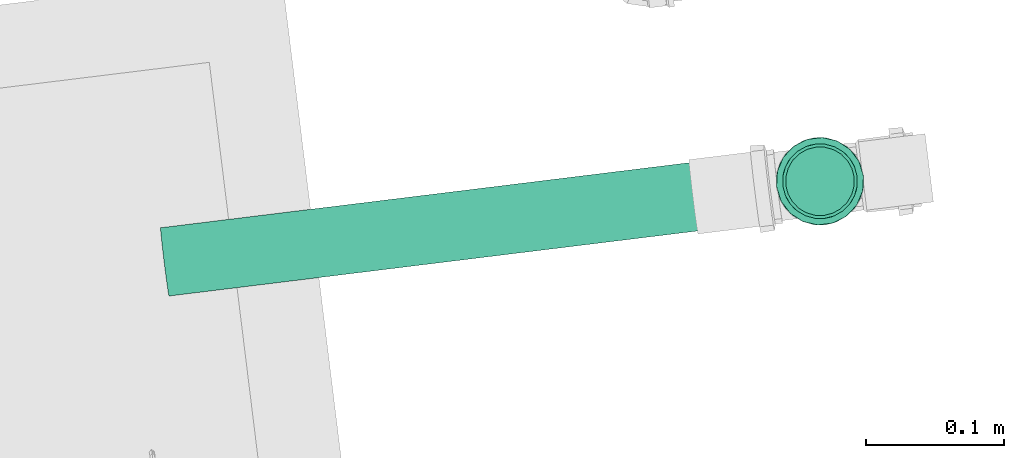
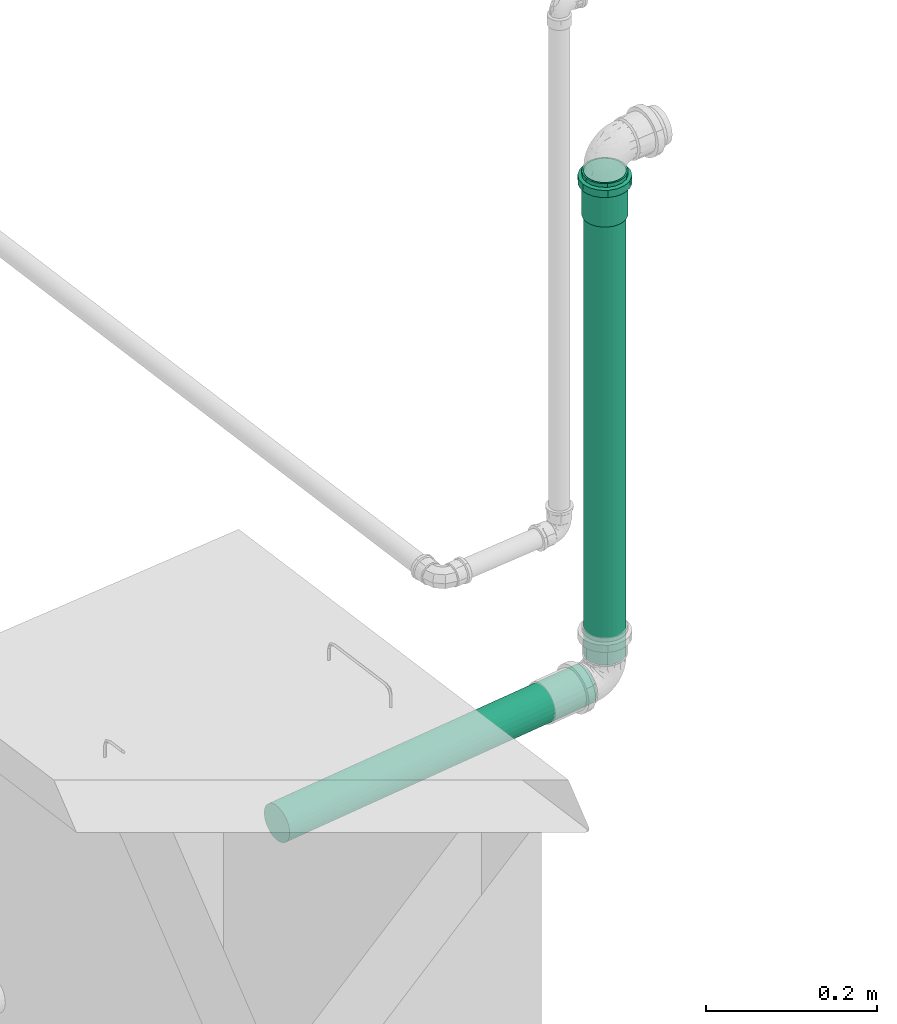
# One storey, part 34 of 97: 2 flow segments, 1 flow fitting.
"""IFC2X3 building model written with IfcOpenShell, lengths in centimetres."""

from ifc_helpers import new_model, entity, si_unit, converted_unit, derived_unit, direction, frame, frame_2d, origin, origin_2d_with_axis, place, context, subcontext, project, spatial, circle, extrude, faceted_brep, source, transform, mapped, material, type_object, type_shapes, element, save


model = new_model("IFC2X3")

# Units and contexts
model_context = context("Model", 3, precision=0.001, world=origin(), true_north=direction((6.12303176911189e-17, 1.0)))
body_context = subcontext(model_context, "Body", "Model", "MODEL_VIEW")
ifc_project = project(units=[si_unit("LENGTHUNIT", "METRE", prefix="CENTI"), si_unit("AREAUNIT", "SQUARE_METRE"), si_unit("VOLUMEUNIT", "CUBIC_METRE"), converted_unit("PLANEANGLEUNIT", "DEGREE", entity("IfcRatioMeasure", 0.0174532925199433), si_unit("PLANEANGLEUNIT", "RADIAN"), dimensions=[0, 0, 0, 0, 0, 0, 0]), si_unit("MASSUNIT", "GRAM", prefix="KILO"), derived_unit("MASSDENSITYUNIT", [(si_unit("MASSUNIT", "GRAM", prefix="KILO"), 1), (si_unit("LENGTHUNIT", "METRE"), -3)]), derived_unit("MOMENTOFINERTIAUNIT", [(si_unit("LENGTHUNIT", "METRE"), 4)]), si_unit("TIMEUNIT", "SECOND"), si_unit("FREQUENCYUNIT", "HERTZ"), si_unit("THERMODYNAMICTEMPERATUREUNIT", "DEGREE_CELSIUS"), derived_unit("THERMALTRANSMITTANCEUNIT", [(si_unit("MASSUNIT", "GRAM", prefix="KILO"), 1), (si_unit("THERMODYNAMICTEMPERATUREUNIT", "KELVIN"), -1), (si_unit("TIMEUNIT", "SECOND"), -3)]), derived_unit("VOLUMETRICFLOWRATEUNIT", [(si_unit("LENGTHUNIT", "METRE"), 3), (si_unit("TIMEUNIT", "SECOND"), -1)]), si_unit("ELECTRICCURRENTUNIT", "AMPERE"), si_unit("ELECTRICVOLTAGEUNIT", "VOLT"), si_unit("POWERUNIT", "WATT"), si_unit("FORCEUNIT", "NEWTON", prefix="KILO"), si_unit("ILLUMINANCEUNIT", "LUX"), si_unit("LUMINOUSFLUXUNIT", "LUMEN"), si_unit("LUMINOUSINTENSITYUNIT", "CANDELA"), derived_unit("USERDEFINED", [(si_unit("MASSUNIT", "GRAM", prefix="KILO"), -1), (si_unit("LENGTHUNIT", "METRE"), -2), (si_unit("TIMEUNIT", "SECOND"), 3), (si_unit("LUMINOUSFLUXUNIT", "LUMEN"), 1)]), derived_unit("LINEARVELOCITYUNIT", [(si_unit("LENGTHUNIT", "METRE"), 1), (si_unit("TIMEUNIT", "SECOND"), -1)]), si_unit("PRESSUREUNIT", "PASCAL"), derived_unit("USERDEFINED", [(si_unit("LENGTHUNIT", "METRE"), -2), (si_unit("MASSUNIT", "GRAM", prefix="KILO"), 1), (si_unit("TIMEUNIT", "SECOND"), -2)]), derived_unit("LINEARFORCEUNIT", [(si_unit("MASSUNIT", "GRAM", prefix="KILO"), 1), (si_unit("LENGTHUNIT", "METRE"), 1), (si_unit("TIMEUNIT", "SECOND"), -2), (si_unit("LENGTHUNIT", "METRE"), -1)]), derived_unit("PLANARFORCEUNIT", [(si_unit("MASSUNIT", "GRAM", prefix="KILO"), 1), (si_unit("LENGTHUNIT", "METRE"), 1), (si_unit("TIMEUNIT", "SECOND"), -2), (si_unit("LENGTHUNIT", "METRE"), -2)])], contexts=[model_context])

# Site, building, storey
site_placement = place(None, origin())
site = spatial("IfcSite", under=ifc_project, at=site_placement, Name="Default", CompositionType="ELEMENT")
building_placement = place(site_placement, origin())
building = spatial("IfcBuilding", under=site, at=building_placement, Name="HIDROSSANITÁRIO", CompositionType="ELEMENT")
storey_placement = place(building_placement, frame((0.0, 0.0, -260.0)))
storey = spatial("IfcBuildingStorey", under=building, at=storey_placement, Name="TÉRREO-HID", CompositionType="ELEMENT", Elevation=-260.0)

# Flow segments
pipe_segment_type = type_object("IfcPipeSegmentType", Name="Tipos de tubos:Tubo - Esgoto - Série Normal", PredefinedType="NOTDEFINED")
flow_segment_1_placement = place(storey_placement, origin())
element("IfcFlowSegment", 1, at=flow_segment_1_placement, inside=storey, type_object=pipe_segment_type, Name="Tipos de tubos:Tubo - Esgoto - Série Normal", ObjectType="Tipos de tubos:Tubo - Esgoto - Série Normal", context=body_context, shape_type="SweptSolid", body=[
    extrude(circle(Radius=2.5, at=origin_2d_with_axis()), frame((-258.461520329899, 3062.14835597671, -25.9596161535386), z_axis=(0.992312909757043, 0.122128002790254, 0.0199960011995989), x_axis=(-0.12215242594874, 0.992511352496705, 0.0)), (0.0, 0.0, 1.0), 44.9410790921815),
])
flow_segment_2_placement = place(storey_placement, origin())
element("IfcFlowSegment", 2, at=flow_segment_2_placement, inside=storey, type_object=pipe_segment_type, Name="Tipos de tubos:Tubo - Esgoto - Série Normal", ObjectType="Tipos de tubos:Tubo - Esgoto - Série Normal", context=body_context, shape_type="SweptSolid", body=[
    extrude(circle(Radius=2.5, at=frame_2d((0.0, 4.33146851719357e-13), x_axis=(1.0, 0.0))), frame((-210.840024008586, 3068.00932803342, -21.9314800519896)), (0.0, 0.0, 1.0), 68.8114800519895),
])

# Flow fitting
ifc_material = material(Name="PVC Branco")
pipe_fitting_type = type_object("IfcPipeFittingType", Name="Luva Simples para Conexão - Serie Normal - Esgoto - MEP - Tigre:Standard", PredefinedType="NOTDEFINED", material=ifc_material)
shared_shape = source(origin(), body_context, "Body", "Brep", [
    faceted_brep([(1.65999999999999, 1.59, -2.75396078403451), (1.65999999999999, 2.24859956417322, -2.24859956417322), (1.65999999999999, 1.35999999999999, -2.35558909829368), (1.65999999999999, 0.703987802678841, -2.62731824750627), (1.65999999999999, 0.82304456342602, -3.07164412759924), (1.65999999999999, 1.9233304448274, -1.92333044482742), (1.65999999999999, 2.75396078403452, -1.59), (1.65999999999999, 2.35558909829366, -1.36000000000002), (1.65999999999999, 2.62731824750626, -0.703987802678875), (1.65999999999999, 3.07164412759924, -0.823044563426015), (1.65999999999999, 2.72, 0.0), (1.65999999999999, 3.18, 0.0), (1.65999999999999, 2.62731824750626, 0.703987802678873), (1.65999999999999, 3.07164412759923, 0.823044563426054), (1.65999999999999, 2.35558909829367, 1.36000000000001), (1.65999999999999, 2.7539607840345, 1.59000000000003), (1.65999999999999, 1.9233304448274, 1.92333044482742), (1.65999999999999, 2.24859956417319, 2.24859956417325), (1.65999999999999, 1.35999999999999, 2.35558909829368), (1.65999999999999, 1.58999999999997, 2.75396078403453), (1.65999999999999, 0.703987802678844, 2.62731824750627), (1.65999999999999, 0.823044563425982, 3.07164412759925), (1.65999999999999, 0.0, 2.72), (1.65999999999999, 0.0, 3.18), (1.65999999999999, -0.703987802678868, 2.62731824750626), (1.65999999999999, -0.823044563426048, 3.07164412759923), (1.65999999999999, -1.36000000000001, 2.35558909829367), (1.65999999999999, -1.59000000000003, 2.7539607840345), (1.65999999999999, -1.92333044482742, 1.9233304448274), (1.65999999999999, -2.24859956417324, 2.2485995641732), (1.65999999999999, -2.35558909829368, 1.35999999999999), (1.65999999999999, -2.75396078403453, 1.58999999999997), (1.65999999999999, -3.07164412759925, 0.823044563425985), (1.65999999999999, -2.62731824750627, 0.703987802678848), (1.65999999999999, -3.18, 0.0), (1.65999999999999, -2.72, 0.0), (1.65999999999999, -3.07164412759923, -0.823044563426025), (1.65999999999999, -2.62731824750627, -0.703987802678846), (1.65999999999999, -2.75396078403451, -1.59000000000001), (1.65999999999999, -2.35558909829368, -1.35999999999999), (1.65999999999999, -2.24859956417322, -2.24859956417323), (1.65999999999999, -1.92333044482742, -1.9233304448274), (1.65999999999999, -1.58999999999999, -2.75396078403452), (1.65999999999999, -1.36000000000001, -2.35558909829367), (1.65999999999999, -0.823044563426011, -3.07164412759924), (1.65999999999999, -0.70398780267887, -2.62731824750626), (1.65999999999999, 0.0, -3.18), (1.65999999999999, 0.0, -2.72), (0.650000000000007, -1.07081089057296, 2.94292196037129), (0.650000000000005, -2.43590738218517, 2.04420038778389), (0.650000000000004, -2.7120498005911, 1.56595386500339), (0.650000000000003, -2.98819221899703, 1.08770734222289), (0.650000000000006, -1.58976972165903, 2.75409372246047), (0.650000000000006, -2.0128385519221, 2.39914705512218), (0.650000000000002, -3.08409610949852, 0.54385367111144), (0.650000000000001, -3.18, 0.0), (0.650000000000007, -0.551852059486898, 3.13175019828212), (0.650000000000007, 0.552637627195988, 3.13161167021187), (0.650000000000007, 0.000392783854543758, 3.13168093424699), (0.650000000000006, 2.01344030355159, 2.39864206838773), (0.650000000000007, 1.07154907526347, 2.94265325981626), (0.650000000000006, 1.59046052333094, 2.75369484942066), (0.650000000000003, 2.98846497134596, 1.08695773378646), (0.650000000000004, 2.7124425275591, 1.56527351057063), (0.650000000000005, 2.43642008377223, 2.0435892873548), (0.650000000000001, 3.18, 0.0), (0.649999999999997, 2.43642008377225, -2.04358928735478), (0.649999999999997, 2.71244252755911, -1.5652735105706), (0.649999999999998, 2.98846497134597, -1.08695773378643), (0.649999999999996, 1.59046052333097, -2.75369484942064), (0.649999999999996, 2.01344030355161, -2.39864206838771), (0.649999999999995, 1.07154907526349, -2.94265325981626), (0.649999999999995, 0.552637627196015, -3.13161167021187), (0.649999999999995, -0.551852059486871, -3.13175019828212), (0.649999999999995, 0.000392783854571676, -3.13168093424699), (0.649999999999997, -2.01283855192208, -2.3991470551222), (0.649999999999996, -1.58976972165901, -2.75409372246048), (0.649999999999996, -1.07081089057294, -2.9429219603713), (0.649999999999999, -2.98819221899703, -1.08770734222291), (0.649999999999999, -2.71204980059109, -1.56595386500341), (0.649999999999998, -2.43590738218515, -2.04420038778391), (0.65, -3.08409610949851, -0.543853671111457), (0.64999999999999, -3.06961738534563, -0.625959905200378), (6.20000000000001, 1.36, -2.35558909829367), (6.20000000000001, 1.92333044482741, -1.92333044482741), (6.20000000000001, 1.24999999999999, -2.1650635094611), (6.20000000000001, 0.647047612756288, -2.41481456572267), (6.20000000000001, 0.70398780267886, -2.62731824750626), (6.20000000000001, 1.76776695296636, -1.76776695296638), (6.20000000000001, 2.35558909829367, -1.36), (6.20000000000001, 2.16506350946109, -1.25000000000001), (6.20000000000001, 2.41481456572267, -0.647047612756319), (6.20000000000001, 2.62731824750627, -0.703987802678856), (6.20000000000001, 2.5, 0.0), (6.20000000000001, 2.72, 0.0), (6.20000000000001, 2.41481456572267, 0.647047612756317), (6.20000000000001, 2.62731824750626, 0.703987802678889), (6.20000000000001, 2.16506350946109, 1.25000000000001), (6.20000000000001, 2.35558909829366, 1.36000000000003), (6.20000000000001, 1.76776695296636, 1.76776695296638), (6.20000000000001, 1.92333044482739, 1.92333044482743), (6.20000000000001, 1.24999999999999, 2.1650635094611), (6.20000000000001, 1.35999999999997, 2.35558909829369), (6.20000000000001, 0.64704761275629, 2.41481456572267), (6.20000000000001, 0.703987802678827, 2.62731824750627), (6.20000000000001, 0.0, 2.5), (6.20000000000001, 0.0, 2.72), (6.20000000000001, -0.647047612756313, 2.41481456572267), (6.20000000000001, -0.703987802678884, 2.62731824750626), (6.20000000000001, -1.25000000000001, 2.16506350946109), (6.20000000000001, -1.36000000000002, 2.35558909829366), (6.20000000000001, -1.76776695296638, 1.76776695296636), (6.20000000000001, -1.92333044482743, 1.92333044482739), (6.20000000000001, -2.1650635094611, 1.24999999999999), (6.20000000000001, -2.35558909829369, 1.35999999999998), (6.20000000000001, -2.62731824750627, 0.703987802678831), (6.20000000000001, -2.41481456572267, 0.647047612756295), (6.20000000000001, -2.72, 0.0), (6.20000000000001, -2.5, 0.0), (6.20000000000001, -2.62731824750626, -0.703987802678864), (6.20000000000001, -2.41481456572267, -0.647047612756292), (6.20000000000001, -2.35558909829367, -1.36000000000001), (6.20000000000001, -2.1650635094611, -1.24999999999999), (6.20000000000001, -1.9233304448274, -1.92333044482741), (6.20000000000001, -1.76776695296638, -1.76776695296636), (6.20000000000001, -1.36, -2.35558909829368), (6.20000000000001, -1.25000000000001, -2.16506350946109), (6.20000000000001, -0.703987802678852, -2.62731824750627), (6.20000000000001, -0.647047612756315, -2.41481456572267), (6.20000000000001, 0.0, -2.72), (6.20000000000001, 0.0, -2.5), (0.0, 1.24999999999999, -2.1650635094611), (0.0, 1.92333044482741, -1.92333044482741), (0.0, 1.36, -2.35558909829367), (0.0, 0.647047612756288, -2.41481456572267), (0.0, 1.76776695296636, -1.76776695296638), (0.0, 2.35558909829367, -1.36), (0.0, 2.16506350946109, -1.25000000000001), (0.0, 2.41481456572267, -0.647047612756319), (0.0, 2.62731824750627, -0.703987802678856), (0.0, 2.5, 0.0), (0.0, 2.72, 0.0), (0.0, 2.41481456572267, 0.647047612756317), (0.0, 2.62731824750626, 0.703987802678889), (0.0, 2.16506350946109, 1.25000000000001), (0.0, 2.35558909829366, 1.36000000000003), (0.0, 1.76776695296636, 1.76776695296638), (0.0, 1.92333044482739, 1.92333044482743), (0.0, 1.24999999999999, 2.1650635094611), (0.0, 1.35999999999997, 2.35558909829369), (0.0, 0.64704761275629, 2.41481456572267), (0.0, 0.703987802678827, 2.62731824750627), (0.0, 0.0, 2.5), (0.0, 0.0, 2.72), (0.0, -0.647047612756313, 2.41481456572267), (0.0, -0.703987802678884, 2.62731824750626), (0.0, -1.25000000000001, 2.16506350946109), (0.0, -1.36000000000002, 2.35558909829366), (0.0, -1.76776695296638, 1.76776695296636), (0.0, -1.92333044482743, 1.92333044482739), (0.0, -2.1650635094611, 1.24999999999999), (0.0, -2.35558909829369, 1.35999999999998), (0.0, -2.62731824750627, 0.703987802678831), (0.0, -2.41481456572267, 0.647047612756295), (0.0, -2.72, 0.0), (0.0, -2.5, 0.0), (0.0, -2.62731824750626, -0.703987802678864), (0.0, -2.41481456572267, -0.647047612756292), (0.0, -2.35558909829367, -1.36000000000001), (0.0, -2.1650635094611, -1.24999999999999), (0.0, -1.9233304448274, -1.92333044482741), (0.0, -1.76776695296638, -1.76776695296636), (0.0, -1.36, -2.35558909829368), (0.0, -1.25000000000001, -2.16506350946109), (0.0, -0.703987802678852, -2.62731824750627), (0.0, -0.647047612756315, -2.41481456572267), (0.0, 0.0, -2.72), (0.0, 0.0, -2.5), (0.0, 0.70398780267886, -2.62731824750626), (0.53, -2.63796899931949, 0.465183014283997), (0.529999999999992, -2.62558467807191, 0.535412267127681), (0.530000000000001, -2.55593799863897, 0.930366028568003), (0.530000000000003, -2.08354342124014, 1.74849844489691), (0.530000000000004, -1.72167322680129, 2.05210062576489), (0.530000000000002, -2.31974070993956, 1.33943223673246), (0.530000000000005, -0.472024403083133, 2.67872972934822), (0.530000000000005, -0.915913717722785, 2.51721626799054), (0.53, -2.72, 0.0), (0.530000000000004, -1.35980303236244, 2.35570280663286), (0.530000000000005, 0.916545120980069, 2.51698643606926), (0.530000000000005, 1.36039390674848, 2.35536163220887), (0.530000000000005, 0.47269633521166, 2.67861123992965), (0.530000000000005, 1.72218793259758, 2.05166868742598), (0.530000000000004, 2.08398195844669, 1.7479757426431), (0.530000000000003, 2.5561712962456, 0.929724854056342), (0.53, 2.72, 0.0), (0.530000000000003, 2.32007662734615, 1.33885029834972), (0.530000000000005, 0.000335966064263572, 2.67867048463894), (0.529999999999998, 2.55617129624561, -0.929724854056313), (0.529999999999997, 2.08398195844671, -1.74797574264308), (0.529999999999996, 1.7221879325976, -2.05166868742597), (0.529999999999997, 2.32007662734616, -1.3388502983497), (0.529999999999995, 0.472696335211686, -2.67861123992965), (0.529999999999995, 0.916545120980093, -2.51698643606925), (0.529999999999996, 1.3603939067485, -2.35536163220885), (0.529999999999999, -2.63796899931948, -0.465183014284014), (0.529999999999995, -0.915913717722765, -2.51721626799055), (0.529999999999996, -1.35980303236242, -2.35570280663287), (0.529999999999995, -0.47202440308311, -2.67872972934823), (0.529999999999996, -1.72167322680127, -2.0521006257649), (0.529999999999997, -2.08354342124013, -1.74849844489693), (0.529999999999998, -2.55593799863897, -0.930366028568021), (0.529999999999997, -2.31974070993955, -1.33943223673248), (0.529999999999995, 0.000335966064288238, -2.67867048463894), (3.9, -2.5, 0.0), (3.9, 2.5, 0.0)], [[[0, 1, 2]], [[0, 2, 3]], [[3, 4, 0]], [[2, 1, 5]], [[6, 5, 1]], [[7, 5, 6]], [[8, 7, 6]], [[8, 6, 9]], [[8, 9, 10]], [[10, 9, 11]], [[12, 10, 11]], [[12, 11, 13]], [[14, 12, 13]], [[14, 13, 15]], [[16, 14, 15]], [[15, 17, 16]], [[17, 18, 16]], [[17, 19, 18]], [[18, 19, 20]], [[21, 20, 19]], [[20, 21, 22]], [[22, 21, 23]], [[22, 23, 24]], [[24, 23, 25]], [[24, 25, 26]], [[27, 26, 25]], [[27, 28, 26]], [[28, 27, 29]], [[30, 28, 29]], [[31, 30, 29]], [[32, 30, 31]], [[33, 30, 32]], [[33, 32, 34]], [[35, 33, 34]], [[36, 35, 34]], [[36, 37, 35]], [[37, 36, 38]], [[39, 37, 38]], [[39, 38, 40]], [[39, 40, 41]], [[40, 42, 41]], [[41, 42, 43]], [[43, 42, 44]], [[44, 45, 43]], [[46, 45, 44]], [[4, 47, 46]], [[46, 47, 45]], [[4, 3, 47]], [[48, 27, 25]], [[31, 29, 49]], [[31, 49, 50, 51]], [[52, 53, 27]], [[32, 51, 54]], [[54, 55, 34]], [[54, 34, 32]], [[25, 56, 48]], [[49, 29, 53]], [[23, 57, 58, 56]], [[59, 19, 17]], [[27, 53, 29]], [[48, 52, 27]], [[31, 51, 32]], [[57, 23, 21]], [[60, 19, 61]], [[15, 62, 63, 64]], [[19, 60, 21]], [[15, 13, 62]], [[17, 64, 59]], [[57, 21, 60]], [[23, 56, 25]], [[15, 64, 17]], [[13, 65, 62]], [[13, 11, 65]], [[59, 61, 19]], [[65, 11, 9]], [[6, 1, 66]], [[6, 66, 67, 68]], [[69, 70, 0]], [[68, 65, 9]], [[71, 69, 0]], [[71, 0, 4]], [[4, 72, 71]], [[66, 1, 70]], [[46, 73, 74, 72]], [[75, 76, 42]], [[0, 70, 1]], [[75, 42, 40]], [[6, 68, 9]], [[73, 46, 44]], [[77, 42, 76]], [[38, 78, 79, 80]], [[42, 77, 44]], [[38, 36, 78]], [[40, 80, 75]], [[73, 44, 77]], [[46, 72, 4]], [[38, 80, 40]], [[36, 81, 82, 78]], [[55, 81, 34]], [[34, 81, 36]], [[83, 84, 85]], [[83, 85, 86]], [[86, 87, 83]], [[85, 84, 88]], [[89, 88, 84]], [[88, 89, 90]], [[90, 89, 91]], [[92, 91, 89]], [[92, 93, 91]], [[93, 92, 94]], [[95, 93, 94]], [[94, 96, 95]], [[95, 96, 97]], [[98, 97, 96]], [[97, 98, 99]], [[99, 98, 100]], [[101, 99, 100]], [[100, 102, 101]], [[101, 102, 103]], [[104, 103, 102]], [[103, 104, 105]], [[105, 104, 106]], [[105, 106, 107]], [[107, 106, 108]], [[107, 108, 109]], [[110, 109, 108]], [[110, 111, 109]], [[111, 110, 112]], [[112, 113, 111]], [[114, 113, 112]], [[113, 114, 115]], [[115, 116, 113]], [[117, 116, 115]], [[117, 118, 116]], [[119, 118, 117]], [[119, 120, 118]], [[120, 119, 121]], [[121, 122, 120]], [[122, 121, 123]], [[122, 123, 124]], [[123, 125, 124]], [[124, 125, 126]], [[126, 125, 127]], [[127, 128, 126]], [[129, 128, 127]], [[87, 130, 129]], [[129, 130, 128]], [[87, 86, 130]], [[131, 132, 133]], [[134, 131, 133]], [[135, 132, 131]], [[132, 135, 136]], [[137, 136, 135]], [[138, 136, 137]], [[136, 138, 139]], [[138, 140, 139]], [[141, 139, 140]], [[141, 140, 142]], [[142, 143, 141]], [[144, 143, 142]], [[143, 144, 145]], [[146, 145, 144]], [[147, 145, 146]], [[147, 146, 148]], [[148, 149, 147]], [[150, 149, 148]], [[149, 150, 151]], [[152, 151, 150]], [[153, 151, 152]], [[154, 153, 152]], [[155, 153, 154]], [[156, 155, 154]], [[155, 156, 157]], [[156, 158, 157]], [[159, 157, 158]], [[158, 160, 159]], [[159, 160, 161]], [[162, 161, 160]], [[160, 163, 162]], [[162, 163, 164]], [[163, 165, 164]], [[164, 165, 166]], [[165, 167, 166]], [[168, 166, 167]], [[167, 169, 168]], [[170, 168, 169]], [[171, 170, 169]], [[171, 172, 170]], [[173, 172, 171]], [[174, 172, 173]], [[173, 175, 174]], [[174, 175, 176]], [[175, 177, 176]], [[177, 134, 178]], [[176, 177, 178]], [[133, 178, 134]], [[162, 179, 180, 181]], [[159, 182, 183]], [[182, 161, 181, 184]], [[185, 155, 186]], [[161, 162, 181]], [[187, 179, 164]], [[183, 188, 157]], [[183, 157, 159]], [[161, 182, 159]], [[189, 190, 149]], [[189, 149, 151]], [[157, 188, 186]], [[157, 186, 155]], [[153, 155, 185]], [[164, 179, 162]], [[151, 191, 189]], [[147, 192, 193]], [[143, 194, 195]], [[194, 145, 193, 196]], [[143, 195, 141]], [[10, 12, 96, 94]], [[149, 192, 147]], [[153, 185, 197, 191]], [[153, 191, 151]], [[145, 147, 193]], [[190, 192, 149]], [[145, 194, 143]], [[139, 195, 198]], [[132, 199, 200]], [[199, 136, 198, 201]], [[202, 178, 203]], [[136, 139, 198]], [[139, 141, 195]], [[92, 8, 10, 94]], [[133, 203, 178]], [[200, 204, 133]], [[136, 199, 132]], [[205, 164, 166]], [[206, 207, 172]], [[133, 204, 203]], [[206, 172, 174]], [[176, 178, 202]], [[200, 133, 132]], [[174, 208, 206]], [[170, 209, 210]], [[166, 211, 205]], [[211, 168, 210, 212]], [[168, 211, 166]], [[172, 209, 170]], [[176, 202, 213, 208]], [[176, 208, 174]], [[168, 170, 210]], [[207, 209, 172]], [[205, 187, 164]], [[116, 118, 214, 165, 163]], [[156, 109, 111, 158]], [[111, 113, 160, 158]], [[113, 116, 163, 160]], [[107, 109, 156, 154]], [[154, 152, 105, 107]], [[103, 105, 152, 150]], [[103, 150, 148, 101]], [[142, 95, 97, 144]], [[97, 99, 146, 144]], [[99, 101, 148, 146]], [[93, 95, 142, 140, 215]], [[215, 140, 138, 91, 93]], [[135, 131, 85, 88]], [[90, 91, 138, 137]], [[90, 137, 135, 88]], [[86, 85, 131, 134]], [[134, 177, 130, 86]], [[128, 130, 177, 175]], [[128, 175, 173, 126]], [[167, 120, 122, 169]], [[122, 124, 171, 169]], [[124, 126, 173, 171]], [[118, 120, 167, 165, 214]], [[211, 78, 82, 81, 55, 187, 205]], [[79, 78, 211, 212, 210, 80]], [[75, 80, 210, 209, 207, 76]], [[207, 206, 208, 73, 77, 76]], [[213, 202, 72, 74, 73, 208]], [[203, 204, 69, 71, 72, 202]], [[198, 195, 65, 68]], [[199, 201, 198, 68, 67, 66]], [[204, 200, 199, 66, 70, 69]], [[195, 194, 62, 65]], [[197, 185, 56, 58, 57, 191]], [[63, 62, 194, 196, 193, 64]], [[57, 60, 61, 190, 189, 191]], [[193, 192, 190, 61, 59, 64]], [[48, 56, 185, 186, 188, 52]], [[187, 55, 54, 51, 181, 180, 179]], [[182, 184, 181, 51, 50, 49]], [[188, 183, 182, 49, 53, 52]], [[30, 33, 115, 114]], [[117, 115, 33, 35]], [[26, 28, 112, 110]], [[114, 112, 28, 30]], [[24, 26, 110, 108]], [[108, 106, 22, 24]], [[18, 20, 104, 102]], [[100, 16, 18, 102]], [[12, 14, 98, 96]], [[100, 98, 14, 16]], [[104, 20, 22, 106]], [[89, 7, 8, 92]], [[83, 87, 3, 2]], [[7, 89, 84, 5]], [[83, 2, 5, 84]], [[87, 129, 47, 3]], [[43, 45, 127, 125]], [[123, 41, 43, 125]], [[37, 39, 121, 119]], [[123, 121, 39, 41]], [[35, 37, 119, 117]], [[127, 45, 47, 129]]]),
])
type_shapes(pipe_fitting_type, [shared_shape])
flow_fitting_placement = place(storey_placement, frame((-210.840024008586, 3068.00932803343, 46.8799999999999), z_axis=(0.122152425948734, -0.992511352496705, 0.0), x_axis=(0.0, 0.0, -1.0)))
element("IfcFlowFitting", 3, at=flow_fitting_placement, inside=storey, type_object=pipe_fitting_type, material=ifc_material, Name="Luva Simples para Conexão - Serie Normal - Esgoto - MEP - Tigre:Standard", ObjectType="Luva Simples para Conexão - Serie Normal - Esgoto - MEP - Tigre:Standard", context=body_context, shape_type="MappedRepresentation", body=[
    mapped(shared_shape, transform((0.0, 0.0, 0.0), scale=1.0)),
])

save(model, "model.ifc")
